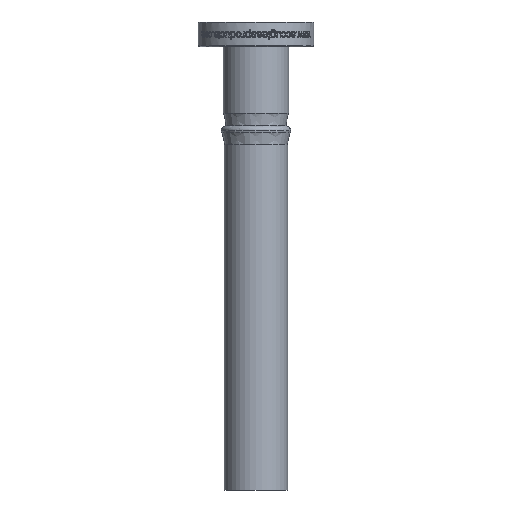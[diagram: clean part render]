
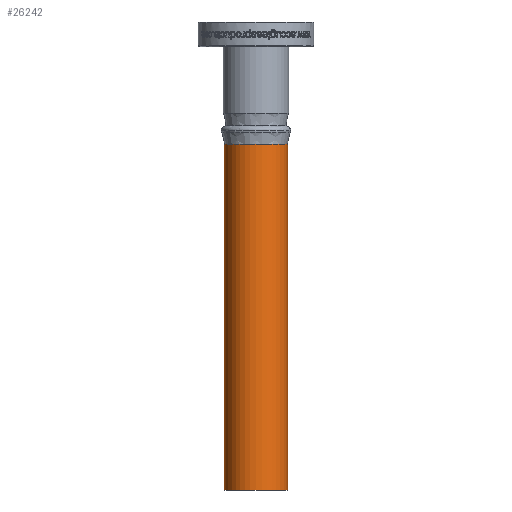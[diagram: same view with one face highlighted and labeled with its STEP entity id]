
A CAD part, front view. The second image highlights one B-rep face of the part: STEP entity #26242.
In plain terms, the highlighted cylindrical face has radius 9.271 mm (diameter 18.542 mm), a partial arc.
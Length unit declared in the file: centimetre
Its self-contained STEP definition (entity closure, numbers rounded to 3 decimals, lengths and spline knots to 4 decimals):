
#2612 = VERTEX_POINT ( 'NONE', #38659 ) ;
#2797 = CARTESIAN_POINT ( 'NONE',  ( 0., 0., -13.6525 ) ) ;
#2798 = DIRECTION ( 'NONE',  ( 0., 0., 1. ) ) ;
#2799 = DIRECTION ( 'NONE',  ( -1., 0., 0. ) ) ;
#2817 = CARTESIAN_POINT ( 'NONE',  ( 0., 0., -3.5678 ) ) ;
#2818 = DIRECTION ( 'NONE',  ( 0., 0., -1. ) ) ;
#2819 = DIRECTION ( 'NONE',  ( -1., 0., 0. ) ) ;
#5632 = CARTESIAN_POINT ( 'NONE',  ( -0.9271, 0., -3.175 ) ) ;
#5653 = DIRECTION ( 'NONE',  ( 0., 0., -1. ) ) ;
#5823 = CARTESIAN_POINT ( 'NONE',  ( 0.9271, 0., -3.175 ) ) ;
#5838 = DIRECTION ( 'NONE',  ( 0., 0., -1. ) ) ;
#8564 = DIRECTION ( 'NONE',  ( -1., 0., 0. ) ) ;
#8565 = DIRECTION ( 'NONE',  ( 0., 0., -1. ) ) ;
#8621 = CARTESIAN_POINT ( 'NONE',  ( 0., 0., -3.175 ) ) ;
#10058 = EDGE_CURVE ( 'NONE', #16403, #49375, #29270, .T. ) ;
#10070 = EDGE_CURVE ( 'NONE', #2612, #16093, #29314, .T. ) ;
#16093 = VERTEX_POINT ( 'NONE', #35476 ) ;
#16403 = VERTEX_POINT ( 'NONE', #35812 ) ;
#26242 = ADVANCED_FACE ( 'NONE', ( #61199 ), #61205, .T. ) ;
#29270 = LINE ( 'NONE', #5632, #29276 ) ;
#29276 = VECTOR ( 'NONE', #5653, 100. ) ;
#29314 = LINE ( 'NONE', #5823, #29324 ) ;
#29324 = VECTOR ( 'NONE', #5838, 100. ) ;
#35476 = CARTESIAN_POINT ( 'NONE',  ( 0.9271, 0., -13.6525 ) ) ;
#35812 = CARTESIAN_POINT ( 'NONE',  ( -0.9271, 0., -3.5678 ) ) ;
#38659 = CARTESIAN_POINT ( 'NONE',  ( 0.9271, 0., -3.5678 ) ) ;
#39225 = EDGE_CURVE ( 'NONE', #49375, #16093, #61706, .T. ) ;
#39231 = EDGE_CURVE ( 'NONE', #2612, #16403, #61717, .T. ) ;
#40191 = ORIENTED_EDGE ( 'NONE', *, *, #39225, .T. ) ;
#40192 = ORIENTED_EDGE ( 'NONE', *, *, #39231, .T. ) ;
#40193 = ORIENTED_EDGE ( 'NONE', *, *, #10058, .T. ) ;
#40194 = ORIENTED_EDGE ( 'NONE', *, *, #10070, .F. ) ;
#40493 = EDGE_LOOP ( 'NONE', ( #40194, #40192, #40193, #40191 ) ) ;
#46763 = CARTESIAN_POINT ( 'NONE',  ( -0.9271, 0., -13.6525 ) ) ;
#49375 = VERTEX_POINT ( 'NONE', #46763 ) ;
#57883 = AXIS2_PLACEMENT_3D ( 'NONE', #2797, #2798, #2799 ) ;
#57886 = AXIS2_PLACEMENT_3D ( 'NONE', #2817, #2818, #2819 ) ;
#61199 = FACE_OUTER_BOUND ( 'NONE', #40493, .T. ) ;
#61205 = CYLINDRICAL_SURFACE ( 'NONE', #63146, 0.9271 ) ;
#61706 = CIRCLE ( 'NONE', #57883, 0.9271 ) ;
#61717 = CIRCLE ( 'NONE', #57886, 0.9271 ) ;
#63146 = AXIS2_PLACEMENT_3D ( 'NONE', #8621, #8565, #8564 ) ;
